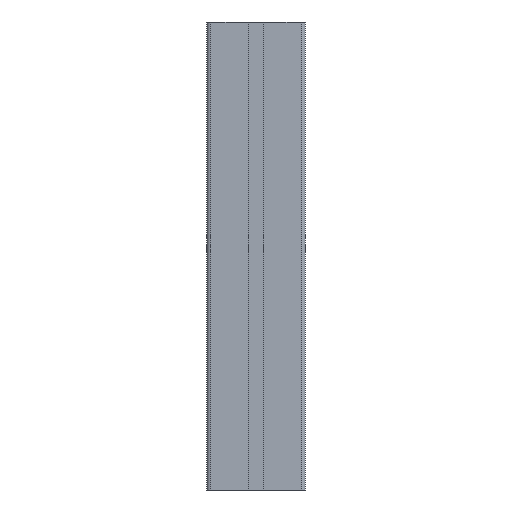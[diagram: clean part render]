
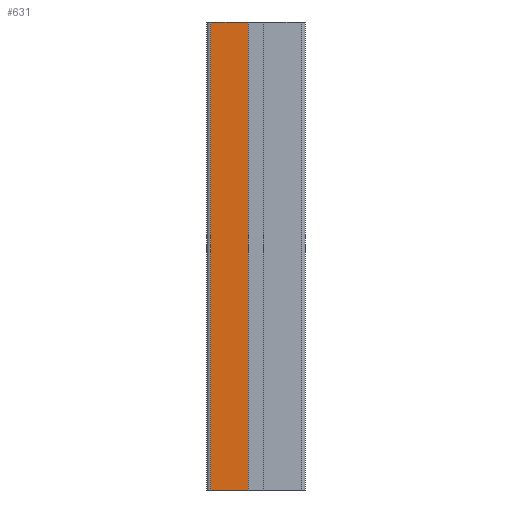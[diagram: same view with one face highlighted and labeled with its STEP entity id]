
A CAD part, left-side view. The second image highlights one B-rep face of the part: STEP entity #631.
In plain terms, the highlighted planar face has unit normal (-1, 0, 0).
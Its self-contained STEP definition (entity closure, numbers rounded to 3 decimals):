
#2 = CARTESIAN_POINT ( 'NONE',  ( 4923.055, 277.407, 0. ) ) ;
#215 = VECTOR ( 'NONE', #1146, 1000. ) ;
#218 = CARTESIAN_POINT ( 'NONE',  ( 4923.055, 301.507, 0. ) ) ;
#222 = VERTEX_POINT ( 'NONE', #218 ) ;
#257 = LINE ( 'NONE', #2, #1364 ) ;
#278 = ORIENTED_EDGE ( 'NONE', *, *, #1558, .T. ) ;
#476 = ORIENTED_EDGE ( 'NONE', *, *, #662, .T. ) ;
#631 = ADVANCED_FACE ( 'NONE', ( #2077 ), #2105, .F. ) ;
#649 = VERTEX_POINT ( 'NONE', #1058 ) ;
#662 = EDGE_CURVE ( 'NONE', #222, #649, #257, .T. ) ;
#740 = ORIENTED_EDGE ( 'NONE', *, *, #2415, .F. ) ;
#821 = CARTESIAN_POINT ( 'NONE',  ( 4923.055, 301.507, 300. ) ) ;
#923 = DIRECTION ( 'NONE',  ( 0., 0., -1. ) ) ;
#1058 = CARTESIAN_POINT ( 'NONE',  ( 4923.055, 277.407, 0. ) ) ;
#1146 = DIRECTION ( 'NONE',  ( 0., 0., -1. ) ) ;
#1203 = DIRECTION ( 'NONE',  ( 0., 0., -1. ) ) ;
#1224 = CARTESIAN_POINT ( 'NONE',  ( 4923.055, 277.407, 300. ) ) ;
#1364 = VECTOR ( 'NONE', #2501, 1000. ) ;
#1448 = CARTESIAN_POINT ( 'NONE',  ( 4923.055, 301.507, 300. ) ) ;
#1510 = DIRECTION ( 'NONE',  ( 1., 0., 0. ) ) ;
#1530 = LINE ( 'NONE', #1224, #2597 ) ;
#1558 = EDGE_CURVE ( 'NONE', #2067, #222, #1754, .T. ) ;
#1754 = LINE ( 'NONE', #1448, #215 ) ;
#1810 = CARTESIAN_POINT ( 'NONE',  ( 4923.055, 277.407, 300. ) ) ;
#1845 = DIRECTION ( 'NONE',  ( 0., -1., 0. ) ) ;
#1856 = ORIENTED_EDGE ( 'NONE', *, *, #2263, .F. ) ;
#1961 = AXIS2_PLACEMENT_3D ( 'NONE', #1810, #1510, #1203 ) ;
#1966 = EDGE_LOOP ( 'NONE', ( #476, #1856, #740, #278 ) ) ;
#2067 = VERTEX_POINT ( 'NONE', #821 ) ;
#2077 = FACE_OUTER_BOUND ( 'NONE', #1966, .T. ) ;
#2105 = PLANE ( 'NONE',  #1961 ) ;
#2142 = CARTESIAN_POINT ( 'NONE',  ( 4923.055, 277.407, 300. ) ) ;
#2263 = EDGE_CURVE ( 'NONE', #2348, #649, #1530, .T. ) ;
#2348 = VERTEX_POINT ( 'NONE', #2528 ) ;
#2415 = EDGE_CURVE ( 'NONE', #2067, #2348, #2749, .T. ) ;
#2501 = DIRECTION ( 'NONE',  ( 0., -1., 0. ) ) ;
#2528 = CARTESIAN_POINT ( 'NONE',  ( 4923.055, 277.407, 300. ) ) ;
#2549 = VECTOR ( 'NONE', #1845, 1000. ) ;
#2597 = VECTOR ( 'NONE', #923, 1000. ) ;
#2749 = LINE ( 'NONE', #2142, #2549 ) ;
